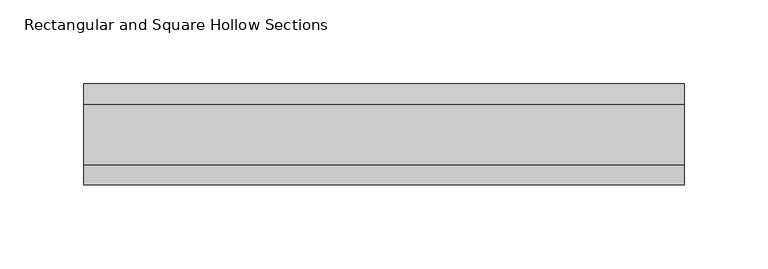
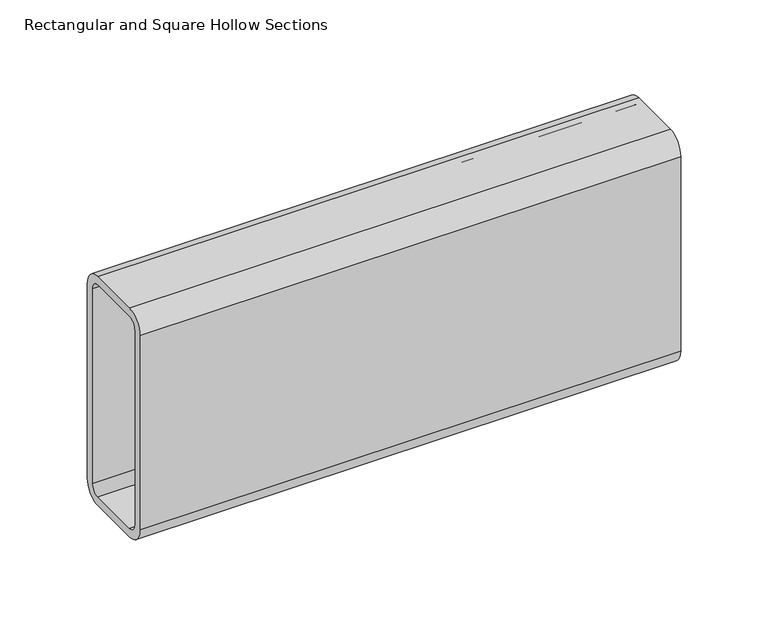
"""IFC4 building model written with IfcOpenShell, lengths in millimetres: beam geometry, Rectangular and Square Hollow Sections : TREC160x60x6."""

import ifcopenshell
import ifcopenshell.guid

model = None  # the IFC model being written
_history = None  # IfcOwnerHistory: only IFC2X3 demands one
_inside = {}  # id of a spatial element -> (the spatial element, [elements in it])
_under = {}  # id of a project, library or spatial element -> (it, [spatial elements below it])
_declared = {}  # id of a project -> (the project, [libraries it declares])
_typed = {}  # id of a type object -> (the type object, [elements of that type])
_made_of = {}  # id of a material, layer set ... -> (it, [elements and type objects made of it])


def new_model(schema):
    """Start an empty IFC model of exactly this schema.

    Asked for "IFC4X3", IfcOpenShell would pick the latest addendum, in which some entities
    have other attributes; the version numbers below select the first issue.
    IFC2X3 requires an IfcOwnerHistory on every rooted entity: one is made here for all.
    """
    global model, _history
    if schema == "IFC4X3":
        model = ifcopenshell.file(schema_version=(4, 3, 0, 0))
    else:
        model = ifcopenshell.file(schema=schema)
    _inside.clear()
    _under.clear()
    _declared.clear()
    _typed.clear()
    _made_of.clear()
    _history = None
    if model.schema == "IFC2X3":
        org = make("IfcOrganization", Name="unknown")
        user = make(
            "IfcPersonAndOrganization",
            ThePerson=make("IfcPerson", FamilyName="unknown"),
            TheOrganization=org,
        )
        app = make(
            "IfcApplication",
            ApplicationDeveloper=org,
            Version="unknown",
            ApplicationFullName="unknown",
            ApplicationIdentifier="unknown",
        )
        _history = make(
            "IfcOwnerHistory",
            OwningUser=user,
            OwningApplication=app,
            ChangeAction="ADDED",
            CreationDate=0,
        )
    return model


def make(cls, **values):
    """One entity of the class cls with the attributes given. An attribute that is None is left unset."""
    return model.create_entity(
        cls, **{name: value for name, value in values.items() if value is not None}
    )


def rooted(cls, **values):
    """An entity with a GlobalId (a new one), such as an element, a storey or a relation."""
    return make(cls, GlobalId=ifcopenshell.guid.new(), OwnerHistory=_history, **values)


def si_unit(unit_type, name, prefix=None):
    """IfcSIUnit, for example si_unit("LENGTHUNIT", "METRE", prefix="MILLI")."""
    return make("IfcSIUnit", UnitType=unit_type, Prefix=prefix, Name=name)


def assignment(units):
    """IfcUnitAssignment: the units of a project."""
    return None if units is None else make("IfcUnitAssignment", Units=units)


def point(xyz):
    """IfcCartesianPoint."""
    return None if xyz is None else make("IfcCartesianPoint", Coordinates=xyz)


def direction(xyz):
    """IfcDirection."""
    return None if xyz is None else make("IfcDirection", DirectionRatios=xyz)


def frame(location, z_axis=None, x_axis=None):
    """IfcAxis2Placement3D, a coordinate frame: its origin and axes. An axis left out is left unset."""
    return make(
        "IfcAxis2Placement3D",
        Location=point(location),
        Axis=direction(z_axis),
        RefDirection=direction(x_axis),
    )


def frame_2d(location, x_axis=None):
    """IfcAxis2Placement2D, a coordinate frame in the plane: its origin and x axis."""
    return make(
        "IfcAxis2Placement2D", Location=point(location), RefDirection=direction(x_axis)
    )


def origin():
    """The frame at (0, 0, 0) with its axes left unset."""
    return frame((0.0, 0.0, 0.0))


def place(relative_to, where):
    """IfcLocalPlacement: puts the frame where relative to a parent placement (None: the world)."""
    return make(
        "IfcLocalPlacement", PlacementRelTo=relative_to, RelativePlacement=where
    )


def context(
    kind, dimensions, precision=None, world=None, true_north=None, identifier=None
):
    """IfcGeometricRepresentationContext, for example the 3D "Model" context."""
    return make(
        "IfcGeometricRepresentationContext",
        ContextIdentifier=identifier,
        ContextType=kind,
        CoordinateSpaceDimension=dimensions,
        Precision=precision,
        WorldCoordinateSystem=world,
        TrueNorth=true_north,
    )


def project(units=None, contexts=None):
    """IfcProject with its units and contexts."""
    return rooted(
        "IfcProject",
        Name="project",
        RepresentationContexts=contexts,
        UnitsInContext=assignment(units),
    )


def spatial(cls, under=None, at=None, **own):
    """A site, building, storey or space (cls), placed at a placement, below another one or the project."""
    s = rooted(cls, ObjectPlacement=at, **own)
    if under is not None:
        _under.setdefault(under.id(), (under, []))[1].append(s)
    return s


def polyline(points):
    """IfcPolyline through the points."""
    return make("IfcPolyline", Points=[point(p) for p in points])


def circle_curve(where, radius):
    """IfcCircle in the frame where."""
    return make("IfcCircle", Position=where, Radius=radius)


def trimmed(basis, trim1, trim2, sense, master):
    """IfcTrimmedCurve: the piece of a basis curve between two trims."""
    return make(
        "IfcTrimmedCurve",
        BasisCurve=basis,
        Trim1=trim1,
        Trim2=trim2,
        SenseAgreement=sense,
        MasterRepresentation=master,
    )


def segment(curve, same_sense, transition):
    """IfcCompositeCurveSegment."""
    return make(
        "IfcCompositeCurveSegment",
        Transition=transition,
        SameSense=same_sense,
        ParentCurve=curve,
    )


def composite_curve(segments, self_intersect=None):
    """IfcCompositeCurve: segments joined end to end."""
    return make("IfcCompositeCurve", Segments=segments, SelfIntersect=self_intersect)


def outline(outer, holes=None, kind="AREA"):
    """IfcArbitraryClosedProfileDef: a profile drawn as a closed curve; with holes, ...WithVoids."""
    if holes is None:
        return make("IfcArbitraryClosedProfileDef", ProfileType=kind, OuterCurve=outer)
    return make(
        "IfcArbitraryProfileDefWithVoids",
        ProfileType=kind,
        OuterCurve=outer,
        InnerCurves=holes,
    )


def extrude(swept, where, along, depth):
    """IfcExtrudedAreaSolid: the profile swept, set in the frame where, extruded along a direction by depth."""
    return make(
        "IfcExtrudedAreaSolid",
        SweptArea=swept,
        Position=where,
        ExtrudedDirection=direction(along),
        Depth=depth,
    )


def shape(context_of_items, identifier, shape_type, items):
    """IfcShapeRepresentation: the items that make up one representation, for example the "Body"."""
    return make(
        "IfcShapeRepresentation",
        ContextOfItems=context_of_items,
        RepresentationIdentifier=identifier,
        RepresentationType=shape_type,
        Items=items,
    )


def source(mapping_origin, context_of_items, identifier, shape_type, items):
    """IfcRepresentationMap: a shape defined once, which mapped items show again and again."""
    return make(
        "IfcRepresentationMap",
        MappingOrigin=mapping_origin,
        MappedRepresentation=shape(context_of_items, identifier, shape_type, items),
    )


def transform(
    local_origin,
    x_axis=None,
    y_axis=None,
    z_axis=None,
    scale=None,
    scale2=None,
    scale3=None,
    uniform=True,
):
    """IfcCartesianTransformationOperator3D, or its non-uniform kind. x_axis, y_axis, z_axis: its Axis1, 2, 3."""
    if uniform:
        return make(
            "IfcCartesianTransformationOperator3D",
            Axis1=direction(x_axis),
            Axis2=direction(y_axis),
            LocalOrigin=point(local_origin),
            Scale=scale,
            Axis3=direction(z_axis),
        )
    return make(
        "IfcCartesianTransformationOperator3DnonUniform",
        Axis1=direction(x_axis),
        Axis2=direction(y_axis),
        LocalOrigin=point(local_origin),
        Scale=scale,
        Axis3=direction(z_axis),
        Scale2=scale2,
        Scale3=scale3,
    )


def mapped(mapping_source, mapping_target):
    """IfcMappedItem: shows the shape of a source again, moved by a transform."""
    return make(
        "IfcMappedItem", MappingSource=mapping_source, MappingTarget=mapping_target
    )


def made_of(thing, what):
    """Note that an element or type object is made of a material, layer set ...; save() writes the relation."""
    if what is not None:
        _made_of.setdefault(what.id(), (what, []))[1].append(thing)
    return thing


def element(
    cls,
    number,
    at=None,
    inside=None,
    cuts=None,
    type_object=None,
    material=None,
    context=None,
    identifier="Body",
    shape_type=None,
    held_by="IfcProductDefinitionShape",
    body=None,
    shapes=None,
    **own,
):
    """One element of the class cls, such as IfcWall. Its Tag is "e" and its number.

    at: its placement. inside: the storey or other place that contains it. cuts: it is an
    opening in that element (IfcRelVoidsElement). A single representation is given by context,
    identifier, shape_type and body (its items); several are given by shapes. held_by: the class
    of the entity that holds the representations. save() writes the other relations.
    """
    e = rooted(cls, Tag="e%d" % number, ObjectPlacement=at, **own)
    if body is not None:
        shapes = [shape(context, identifier, shape_type, body)]
    if shapes is not None:
        e.Representation = make(held_by, Representations=shapes)
    if inside is not None:
        _inside.setdefault(inside.id(), (inside, []))[1].append(e)
    if cuts is not None:
        rooted(
            "IfcRelVoidsElement", RelatingBuildingElement=cuts, RelatedOpeningElement=e
        )
    if type_object is not None:
        _typed.setdefault(type_object.id(), (type_object, []))[1].append(e)
    return made_of(e, material)


def aggregate(whole, parts):
    """IfcRelAggregates: a whole, such as a stair, and the parts it consists of."""
    return rooted("IfcRelAggregates", RelatingObject=whole, RelatedObjects=parts)


def save(model, path):
    """Write the relations noted so far, then the file.

    IfcRelAggregates (storeys below a building ...), IfcRelContainedInSpatialStructure (elements
    in a storey), IfcRelDefinesByType, IfcRelAssociatesMaterial and IfcRelDeclares: one each for
    every whole, place, type object, material and project.
    """
    for whole, parts in _under.values():
        aggregate(whole, parts)
    for where, things in _inside.values():
        rooted(
            "IfcRelContainedInSpatialStructure",
            RelatedElements=things,
            RelatingStructure=where,
        )
    for kind, things in _typed.values():
        rooted("IfcRelDefinesByType", RelatedObjects=things, RelatingType=kind)
    for what, things in _made_of.values():
        rooted("IfcRelAssociatesMaterial", RelatedObjects=things, RelatingMaterial=what)
    for by, libraries in _declared.values():
        rooted("IfcRelDeclares", RelatingContext=by, RelatedDefinitions=libraries)
    model.write(path)


def rectangular_and_square_hollow_sections_c1b9276f(model_context):
    return source(origin(), model_context, "Body", "SweptSolid", [
        extrude(outline(composite_curve([segment(polyline([(30.0, 68.0), (30.0, -68.0)]), True, "CONTINUOUS"), segment(trimmed(circle_curve(frame_2d((18.0, -68.0)), 12.0), [point((30.0, -68.0))], [point((18.0, -80.0))], False, "CARTESIAN"), True, "CONTINUOUS"), segment(polyline([(18.0, -80.0), (-18.0, -80.0)]), True, "CONTINUOUS"), segment(trimmed(circle_curve(frame_2d((-18.0, -68.0)), 12.0), [point((-18.0, -80.0))], [point((-30.0, -68.0))], False, "CARTESIAN"), True, "CONTINUOUS"), segment(polyline([(-30.0, -68.0), (-30.0, 68.0)]), True, "CONTINUOUS"), segment(trimmed(circle_curve(frame_2d((-18.0, 68.0)), 12.0), [point((-30.0, 68.0))], [point((-18.0, 80.0))], False, "CARTESIAN"), True, "CONTINUOUS"), segment(polyline([(-18.0, 80.0), (18.0, 80.0)]), True, "CONTINUOUS"), segment(trimmed(circle_curve(frame_2d((18.0, 68.0)), 12.0), [point((18.0, 80.0))], [point((30.0, 68.0))], False, "CARTESIAN"), True, "CONTINUOUS")], self_intersect=False), holes=[composite_curve([segment(trimmed(circle_curve(frame_2d((-18.0, 68.0)), 6.0), [point((-18.0, 74.0))], [point((-24.0, 68.0))], True, "CARTESIAN"), True, "CONTINUOUS"), segment(polyline([(-24.0, 68.0), (-24.0, -68.0)]), True, "CONTINUOUS"), segment(trimmed(circle_curve(frame_2d((-18.0, -68.0)), 6.0), [point((-24.0, -68.0))], [point((-18.0, -74.0))], True, "CARTESIAN"), True, "CONTINUOUS"), segment(polyline([(-18.0, -74.0), (18.0, -74.0)]), True, "CONTINUOUS"), segment(trimmed(circle_curve(frame_2d((18.0, -68.0)), 6.0), [point((18.0, -74.0))], [point((24.0, -68.0))], True, "CARTESIAN"), True, "CONTINUOUS"), segment(polyline([(24.0, -68.0), (24.0, 68.0)]), True, "CONTINUOUS"), segment(trimmed(circle_curve(frame_2d((18.0, 68.0)), 6.0), [point((24.0, 68.0))], [point((18.0, 74.0))], True, "CARTESIAN"), True, "CONTINUOUS"), segment(polyline([(18.0, 74.0), (-18.0, 74.0)]), True, "CONTINUOUS")], self_intersect=False)]), frame((-166.3589734, 0.0, 0.0), z_axis=(1.0, 0.0, 0.0), x_axis=(0.0, 1.0, 0.0)), (0.0, 0.0, 1.0), 357.292437),
    ])


if __name__ == "__main__":
    model = new_model("IFC4")
    model_context = context("Model", 3, world=origin())
    ifc_project = project(units=[si_unit("LENGTHUNIT", "METRE", prefix="MILLI")], contexts=[model_context])
    site = spatial("IfcSite", under=ifc_project)
    building = spatial("IfcBuilding", under=site)
    placement = place(None, origin())
    rectangular_and_square_hollow_sections_shape = rectangular_and_square_hollow_sections_c1b9276f(model_context)
    element("IfcBeam", 1, ObjectType="Rectangular and Square Hollow Sections : TREC160x60x6", at=placement, inside=building, context=model_context, shape_type="MappedRepresentation", body=[
        mapped(rectangular_and_square_hollow_sections_shape, transform((0.0, 0.0, 0.0), x_axis=(1.0, 0.0, 0.0), y_axis=(0.0, 1.0, 0.0), z_axis=(0.0, 0.0, 1.0))),
    ])
    save(model, "model.ifc")
